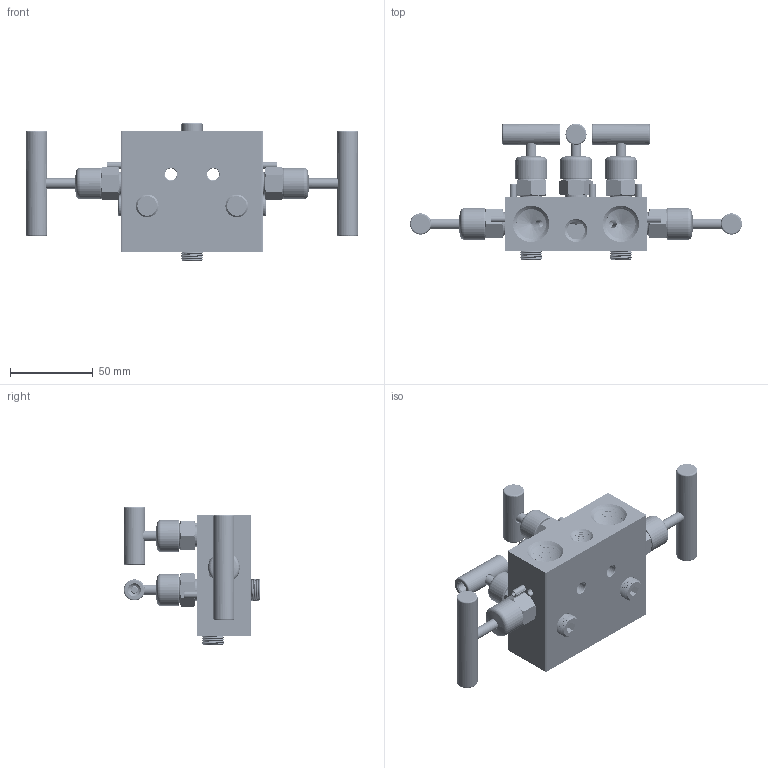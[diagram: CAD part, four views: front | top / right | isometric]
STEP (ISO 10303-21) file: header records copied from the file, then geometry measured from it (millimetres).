
FILE_DESCRIPTION(/* description */ (''),/* implementation_level */ '2;1');
FILE_NAME(/* name */ 'M50HNNS.stp',/* time_stamp */ '2024-06-04T12:58:34-05:00',/* author */ ('Sam'),/* organization */ (''),/* preprocessor_version */ 'ST-DEVELOPER v20',/* originating_system */ 'Autodesk Inventor 2024',/* authorisation */ '');
FILE_SCHEMA (('AUTOMOTIVE_DESIGN { 1 0 10303 214 3 1 1 }'));
Products named in the file (20): Assembly1; 5030-FFS_ASM; 5030BD1-SS1-EP; 25-PP1-SH-SS1; SBA-HC_ASM; BT1-SS1-EP; ST1-SS1-HC; HL2-SS1-EP; 5SP16-SS3; DC1-VL2; 25-20SC12-SS1; 100SBA-HC_ASM; 100ST1-SS1-HC; 100BT1-SS1-EP; 24BR1-TF1; 24OR1-VT1; HL7-SS1-EP; 10-24SC8-SS1; DC3-VL3; DC3-VL4
Assembly tree (38 placements, depth 4):
  Assembly1
    5030-FFS_ASM
      5030BD1-SS1-EP
      25-PP1-SH-SS1  x3
      SBA-HC_ASM  x2
        BT1-SS1-EP
        ST1-SS1-HC
        24BR1-TF1
        24OR1-VT1
      HL2-SS1-EP  x2
      5SP16-SS3  x5
      DC1-VL2  x2
      25-20SC12-SS1  x2
      100SBA-HC_ASM  x3
        100ST1-SS1-HC
        100BT1-SS1-EP
        24BR1-TF1
        24OR1-VT1
      HL7-SS1-EP  x3
      10-24SC8-SS1  x3
      DC3-VL3  x2
      DC3-VL4
Bounding box: 200 x 82.16 x 83.21 mm (x, y, z)
Volume: 230361.4 mm3; surface area: 93817.9 mm2
Topology: 44 solids, 44 shells, 1387 faces, 3770 edges, 2501 vertices
Faces by surface type: cylinder 459, bspline 334, plane 247, cone 243, torus 99, sphere 5
Full cylindrical faces by diameter (mm): 3.175 x3, 3.81 x12, 4.039 x10, 4.775 x6, 4.826 x9, 5.105 x14, 5.309 x5, 6.198 x10, 6.261 x5, 6.35 x18, 6.426 x5, 6.909 x65, 7.112 x2, 7.137 x2, 7.772 x46, 9.042 x10, 9.144 x5, 10.414 x3, 10.716 x7, 11.125 x2, 12.7 x5, 12.903 x6, 13.424 x9, 13.906 x4, 14.173 x9, 14.516 x8, 14.605 x3, 15.673 x8, 15.875 x10, 17.018 x2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
Entity records: 82044 total; most frequent: CARTESIAN_POINT 64221, ORIENTED_EDGE 4138, DIRECTION 2727, EDGE_CURVE 2069, VERTEX_POINT 1382, AXIS2_PLACEMENT_3D 1084, B_SPLINE_CURVE_WITH_KNOTS 1002, EDGE_LOOP 819
